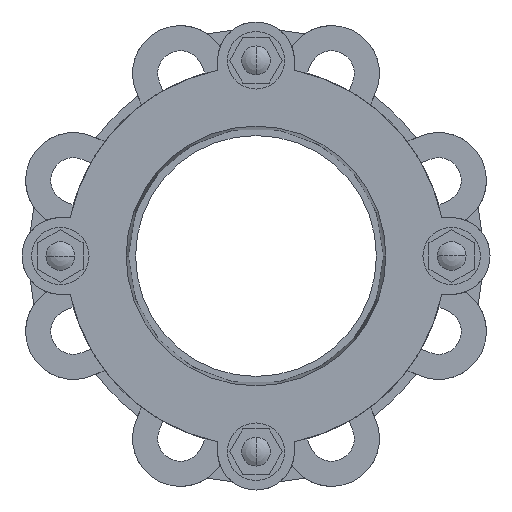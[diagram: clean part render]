
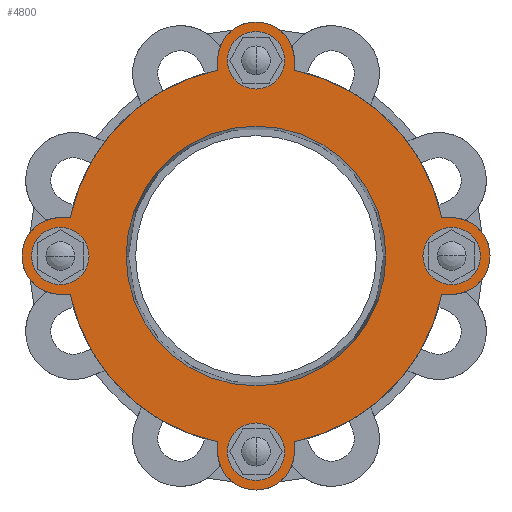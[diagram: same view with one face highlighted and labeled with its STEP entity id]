
A CAD part, left-side view. The second image highlights one B-rep face of the part: STEP entity #4800.
In plain terms, the highlighted planar face has unit normal (-1, 0, 0).
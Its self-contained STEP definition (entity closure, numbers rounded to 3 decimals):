
#105=CARTESIAN_POINT('',(-98.,0.,0.));
#106=DIRECTION('',(-1.,0.,0.));
#107=DIRECTION('',(0.,-0.202,-0.979));
#108=AXIS2_PLACEMENT_3D('',#105,#106,#107);
#141=CARTESIAN_POINT('',(-98.,0.,0.));
#142=DIRECTION('',(-1.,0.,0.));
#143=DIRECTION('',(0.,0.979,-0.202));
#144=AXIS2_PLACEMENT_3D('',#141,#142,#143);
#150=CARTESIAN_POINT('',(-98.,0.,0.));
#151=DIRECTION('',(-1.,0.,0.));
#152=DIRECTION('',(0.,0.202,0.979));
#153=AXIS2_PLACEMENT_3D('',#150,#151,#152);
#177=CARTESIAN_POINT('',(-98.,0.,0.));
#178=DIRECTION('',(-1.,0.,0.));
#179=DIRECTION('',(0.,-0.979,0.202));
#180=AXIS2_PLACEMENT_3D('',#177,#178,#179);
#1185=DIRECTION('',(0.,0.,-1.));
#1186=VECTOR('',#1185,4.132);
#1187=CARTESIAN_POINT('',(-98.,16.,81.75));
#1188=LINE('',#1187,#1186);
#1201=CARTESIAN_POINT('',(-98.,0.,-81.75));
#1202=DIRECTION('',(-1.,0.,0.));
#1203=DIRECTION('',(0.,0.,-1.));
#1204=AXIS2_PLACEMENT_3D('',#1201,#1202,#1203);
#1206=CARTESIAN_POINT('',(-98.,0.,-81.75));
#1207=DIRECTION('',(-1.,0.,0.));
#1208=DIRECTION('',(0.,0.,1.));
#1209=AXIS2_PLACEMENT_3D('',#1206,#1207,#1208);
#1211=CARTESIAN_POINT('',(-98.,0.,81.75));
#1212=DIRECTION('',(-1.,0.,0.));
#1213=DIRECTION('',(0.,0.,1.));
#1214=AXIS2_PLACEMENT_3D('',#1211,#1212,#1213);
#1216=CARTESIAN_POINT('',(-98.,0.,81.75));
#1217=DIRECTION('',(-1.,0.,0.));
#1218=DIRECTION('',(0.,0.,-1.));
#1219=AXIS2_PLACEMENT_3D('',#1216,#1217,#1218);
#1221=CARTESIAN_POINT('',(-98.,81.75,0.));
#1222=DIRECTION('',(-1.,0.,0.));
#1223=DIRECTION('',(0.,1.,0.));
#1224=AXIS2_PLACEMENT_3D('',#1221,#1222,#1223);
#1226=CARTESIAN_POINT('',(-98.,81.75,0.));
#1227=DIRECTION('',(-1.,0.,0.));
#1228=DIRECTION('',(0.,-1.,0.));
#1229=AXIS2_PLACEMENT_3D('',#1226,#1227,#1228);
#1231=DIRECTION('',(0.,-1.,0.));
#1232=VECTOR('',#1231,4.132);
#1233=CARTESIAN_POINT('',(-98.,81.75,-16.));
#1234=LINE('',#1233,#1232);
#1235=CARTESIAN_POINT('',(-98.,81.75,0.));
#1236=DIRECTION('',(-1.,0.,0.));
#1237=DIRECTION('',(0.,0.,1.));
#1238=AXIS2_PLACEMENT_3D('',#1235,#1236,#1237);
#1240=DIRECTION('',(0.,1.,0.));
#1241=VECTOR('',#1240,4.132);
#1242=CARTESIAN_POINT('',(-98.,77.618,16.));
#1243=LINE('',#1242,#1241);
#1244=CARTESIAN_POINT('',(-98.,-81.75,0.));
#1245=DIRECTION('',(-1.,0.,0.));
#1246=DIRECTION('',(0.,-1.,0.));
#1247=AXIS2_PLACEMENT_3D('',#1244,#1245,#1246);
#1249=CARTESIAN_POINT('',(-98.,-81.75,0.));
#1250=DIRECTION('',(-1.,0.,0.));
#1251=DIRECTION('',(0.,1.,0.));
#1252=AXIS2_PLACEMENT_3D('',#1249,#1250,#1251);
#1638=DIRECTION('',(0.,0.,1.));
#1639=VECTOR('',#1638,4.132);
#1640=CARTESIAN_POINT('',(-98.,-16.,-81.75));
#1641=LINE('',#1640,#1639);
#1698=DIRECTION('',(0.,0.,-1.));
#1699=VECTOR('',#1698,4.132);
#1700=CARTESIAN_POINT('',(-98.,16.,-77.618));
#1701=LINE('',#1700,#1699);
#1710=CARTESIAN_POINT('',(-98.,0.,-81.75));
#1711=DIRECTION('',(-1.,0.,0.));
#1712=DIRECTION('',(0.,1.,0.));
#1713=AXIS2_PLACEMENT_3D('',#1710,#1711,#1712);
#2005=CARTESIAN_POINT('',(-98.,0.,81.75));
#2006=DIRECTION('',(-1.,0.,0.));
#2007=DIRECTION('',(0.,-1.,0.));
#2008=AXIS2_PLACEMENT_3D('',#2005,#2006,#2007);
#2028=DIRECTION('',(0.,0.,1.));
#2029=VECTOR('',#2028,4.132);
#2030=CARTESIAN_POINT('',(-98.,-16.,77.618));
#2031=LINE('',#2030,#2029);
#2040=DIRECTION('',(0.,1.,0.));
#2041=VECTOR('',#2040,4.132);
#2042=CARTESIAN_POINT('',(-98.,-81.75,16.));
#2043=LINE('',#2042,#2041);
#2082=DIRECTION('',(0.,-1.,0.));
#2083=VECTOR('',#2082,4.132);
#2084=CARTESIAN_POINT('',(-98.,-77.618,-16.));
#2085=LINE('',#2084,#2083);
#2094=CARTESIAN_POINT('',(-98.,-81.75,0.));
#2095=DIRECTION('',(-1.,0.,0.));
#2096=DIRECTION('',(0.,0.,-1.));
#2097=AXIS2_PLACEMENT_3D('',#2094,#2095,#2096);
#2163=CARTESIAN_POINT('',(-98.,0.,0.));
#2164=DIRECTION('',(1.,0.,0.));
#2165=DIRECTION('',(0.,1.,0.));
#2166=AXIS2_PLACEMENT_3D('',#2163,#2164,#2165);
#2176=CARTESIAN_POINT('',(-98.,0.,0.));
#2177=DIRECTION('',(-1.,0.,0.));
#2178=DIRECTION('',(0.,1.,0.));
#2179=AXIS2_PLACEMENT_3D('',#2176,#2177,#2178);
#2604=CARTESIAN_POINT('',(-98.,54.25,0.));
#2606=VERTEX_POINT('',#2604);
#2614=CARTESIAN_POINT('',(-98.,-54.25,0.));
#2616=VERTEX_POINT('',#2614);
#2628=CARTESIAN_POINT('',(-98.,81.75,16.));
#2629=CARTESIAN_POINT('',(-98.,81.75,-16.));
#2630=VERTEX_POINT('',#2628);
#2631=VERTEX_POINT('',#2629);
#2633=CARTESIAN_POINT('',(-98.,77.618,16.));
#2635=VERTEX_POINT('',#2633);
#2636=CARTESIAN_POINT('',(-98.,77.618,-16.));
#2638=VERTEX_POINT('',#2636);
#2696=CARTESIAN_POINT('',(-98.,16.,81.75));
#2697=VERTEX_POINT('',#2696);
#2698=CARTESIAN_POINT('',(-98.,-16.,81.75));
#2699=VERTEX_POINT('',#2698);
#2728=CARTESIAN_POINT('',(-98.,-81.75,16.));
#2729=VERTEX_POINT('',#2728);
#2730=CARTESIAN_POINT('',(-98.,-81.75,-16.));
#2731=VERTEX_POINT('',#2730);
#2760=CARTESIAN_POINT('',(-98.,-16.,-81.75));
#2761=VERTEX_POINT('',#2760);
#2762=CARTESIAN_POINT('',(-98.,16.,-81.75));
#2763=VERTEX_POINT('',#2762);
#2772=CARTESIAN_POINT('',(-98.,-16.,77.618));
#2773=VERTEX_POINT('',#2772);
#2774=CARTESIAN_POINT('',(-98.,16.,77.618));
#2775=VERTEX_POINT('',#2774);
#2786=CARTESIAN_POINT('',(-98.,-77.618,-16.));
#2787=VERTEX_POINT('',#2786);
#2788=CARTESIAN_POINT('',(-98.,-77.618,16.));
#2789=VERTEX_POINT('',#2788);
#2800=CARTESIAN_POINT('',(-98.,16.,-77.618));
#2801=VERTEX_POINT('',#2800);
#2802=CARTESIAN_POINT('',(-98.,-16.,-77.618));
#2803=VERTEX_POINT('',#2802);
#3140=CARTESIAN_POINT('',(-98.,93.75,0.));
#3141=CARTESIAN_POINT('',(-98.,69.75,0.));
#3142=VERTEX_POINT('',#3140);
#3143=VERTEX_POINT('',#3141);
#3302=CARTESIAN_POINT('',(-98.,0.,93.75));
#3303=VERTEX_POINT('',#3302);
#3304=CARTESIAN_POINT('',(-98.,0.,69.75));
#3305=VERTEX_POINT('',#3304);
#3314=CARTESIAN_POINT('',(-98.,-93.75,0.));
#3315=VERTEX_POINT('',#3314);
#3316=CARTESIAN_POINT('',(-98.,-69.75,0.));
#3317=VERTEX_POINT('',#3316);
#3326=CARTESIAN_POINT('',(-98.,0.,-93.75));
#3327=VERTEX_POINT('',#3326);
#3328=CARTESIAN_POINT('',(-98.,0.,-69.75));
#3329=VERTEX_POINT('',#3328);
#4736=CARTESIAN_POINT('',(-98.,0.,0.));
#4737=DIRECTION('',(1.,0.,0.));
#4738=DIRECTION('',(0.,-1.,0.));
#4739=AXIS2_PLACEMENT_3D('',#4736,#4737,#4738);
#4740=PLANE('',#4739);
#4741=ORIENTED_EDGE('',*,*,#3538,.F.);
#4743=ORIENTED_EDGE('',*,*,#4742,.F.);
#4745=ORIENTED_EDGE('',*,*,#4744,.F.);
#4747=ORIENTED_EDGE('',*,*,#4746,.F.);
#4748=ORIENTED_EDGE('',*,*,#3563,.F.);
#4750=ORIENTED_EDGE('',*,*,#4749,.F.);
#4752=ORIENTED_EDGE('',*,*,#4751,.F.);
#4754=ORIENTED_EDGE('',*,*,#4753,.F.);
#4755=ORIENTED_EDGE('',*,*,#3583,.F.);
#4756=ORIENTED_EDGE('',*,*,#4726,.F.);
#4758=ORIENTED_EDGE('',*,*,#4757,.F.);
#4760=ORIENTED_EDGE('',*,*,#4759,.F.);
#4761=ORIENTED_EDGE('',*,*,#3606,.F.);
#4763=ORIENTED_EDGE('',*,*,#4762,.F.);
#4765=ORIENTED_EDGE('',*,*,#4764,.F.);
#4767=ORIENTED_EDGE('',*,*,#4766,.F.);
#4768=EDGE_LOOP('',(#4741,#4743,#4745,#4747,#4748,#4750,#4752,#4754,#4755,#4756,
#4758,#4760,#4761,#4763,#4765,#4767));
#4769=FACE_OUTER_BOUND('',#4768,.F.);
#4771=ORIENTED_EDGE('',*,*,#4770,.T.);
#4773=ORIENTED_EDGE('',*,*,#4772,.T.);
#4774=EDGE_LOOP('',(#4771,#4773));
#4775=FACE_BOUND('',#4774,.F.);
#4777=ORIENTED_EDGE('',*,*,#4776,.T.);
#4779=ORIENTED_EDGE('',*,*,#4778,.T.);
#4780=EDGE_LOOP('',(#4777,#4779));
#4781=FACE_BOUND('',#4780,.F.);
#4783=ORIENTED_EDGE('',*,*,#4782,.T.);
#4785=ORIENTED_EDGE('',*,*,#4784,.T.);
#4786=EDGE_LOOP('',(#4783,#4785));
#4787=FACE_BOUND('',#4786,.F.);
#4789=ORIENTED_EDGE('',*,*,#4788,.F.);
#4791=ORIENTED_EDGE('',*,*,#4790,.T.);
#4792=EDGE_LOOP('',(#4789,#4791));
#4793=FACE_BOUND('',#4792,.F.);
#4795=ORIENTED_EDGE('',*,*,#4794,.T.);
#4797=ORIENTED_EDGE('',*,*,#4796,.T.);
#4798=EDGE_LOOP('',(#4795,#4797));
#4799=FACE_BOUND('',#4798,.F.);
#4800=ADVANCED_FACE('',(#4769,#4775,#4781,#4787,#4793,#4799),#4740,.F.);
#109=CIRCLE('',#108,79.25);
#145=CIRCLE('',#144,79.25);
#154=CIRCLE('',#153,79.25);
#181=CIRCLE('',#180,79.25);
#1205=CIRCLE('',#1204,12.);
#1210=CIRCLE('',#1209,12.);
#1215=CIRCLE('',#1214,12.);
#1220=CIRCLE('',#1219,12.);
#1225=CIRCLE('',#1224,12.);
#1230=CIRCLE('',#1229,12.);
#1239=CIRCLE('',#1238,16.);
#1248=CIRCLE('',#1247,12.);
#1253=CIRCLE('',#1252,12.);
#1714=CIRCLE('',#1713,16.);
#2009=CIRCLE('',#2008,16.);
#2098=CIRCLE('',#2097,16.);
#2167=CIRCLE('',#2166,54.25);
#2180=CIRCLE('',#2179,54.25);
#3538=EDGE_CURVE('',#2803,#2787,#109,.T.);
#3563=EDGE_CURVE('',#2638,#2801,#145,.T.);
#3583=EDGE_CURVE('',#2775,#2635,#154,.T.);
#3606=EDGE_CURVE('',#2789,#2773,#181,.T.);
#4726=EDGE_CURVE('',#2697,#2775,#1188,.T.);
#4742=EDGE_CURVE('',#2761,#2803,#1641,.T.);
#4744=EDGE_CURVE('',#2763,#2761,#1714,.T.);
#4746=EDGE_CURVE('',#2801,#2763,#1701,.T.);
#4749=EDGE_CURVE('',#2631,#2638,#1234,.T.);
#4751=EDGE_CURVE('',#2630,#2631,#1239,.T.);
#4753=EDGE_CURVE('',#2635,#2630,#1243,.T.);
#4757=EDGE_CURVE('',#2699,#2697,#2009,.T.);
#4759=EDGE_CURVE('',#2773,#2699,#2031,.T.);
#4762=EDGE_CURVE('',#2729,#2789,#2043,.T.);
#4764=EDGE_CURVE('',#2731,#2729,#2098,.T.);
#4766=EDGE_CURVE('',#2787,#2731,#2085,.T.);
#4770=EDGE_CURVE('',#3303,#3305,#1215,.T.);
#4772=EDGE_CURVE('',#3305,#3303,#1220,.T.);
#4776=EDGE_CURVE('',#3142,#3143,#1225,.T.);
#4778=EDGE_CURVE('',#3143,#3142,#1230,.T.);
#4782=EDGE_CURVE('',#3327,#3329,#1205,.T.);
#4784=EDGE_CURVE('',#3329,#3327,#1210,.T.);
#4788=EDGE_CURVE('',#2606,#2616,#2167,.T.);
#4790=EDGE_CURVE('',#2606,#2616,#2180,.T.);
#4794=EDGE_CURVE('',#3315,#3317,#1248,.T.);
#4796=EDGE_CURVE('',#3317,#3315,#1253,.T.);
